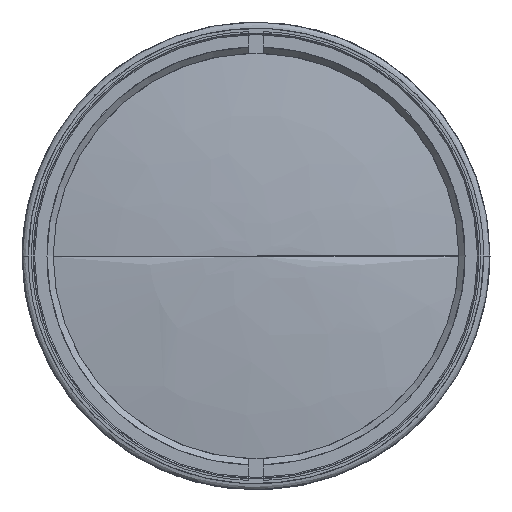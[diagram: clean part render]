
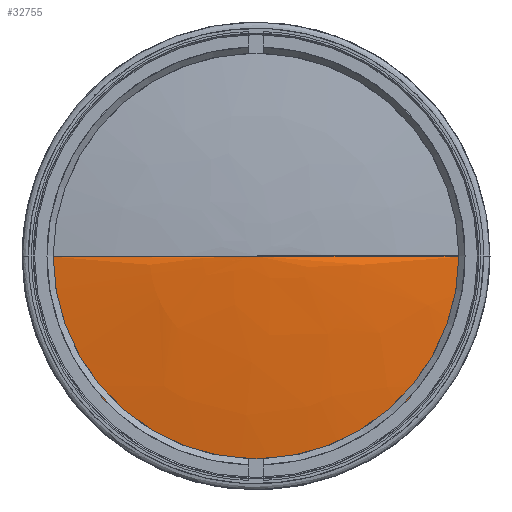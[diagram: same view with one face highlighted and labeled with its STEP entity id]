
A CAD part, left-side view. The second image highlights one B-rep face of the part: STEP entity #32755.
In plain terms, the highlighted face is a revolution surface.
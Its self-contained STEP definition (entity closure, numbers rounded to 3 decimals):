
#32755 = ADVANCED_FACE('',(#32756),#32774,.T.);
#32756 = FACE_BOUND('',#32757,.T.);
#32757 = EDGE_LOOP('',(#32758,#32788,#32807,#32826));
#32758 = ORIENTED_EDGE('',*,*,#32759,.F.);
#32759 = EDGE_CURVE('',#32760,#32762,#32764,.T.);
#32760 = VERTEX_POINT('',#32761);
#32761 = CARTESIAN_POINT('',(-141.713,0.,
    0.));
#32762 = VERTEX_POINT('',#32763);
#32763 = CARTESIAN_POINT('',(-139.409,34.,
    0.));
#32764 = SURFACE_CURVE('',#32765,(#32773),.PCURVE_S1.);
#32765 = ( BOUNDED_CURVE() B_SPLINE_CURVE(6,(#32766,#32767,#32768,#32769
    ,#32770,#32771,#32772),.UNSPECIFIED.,.F.,.F.) 
B_SPLINE_CURVE_WITH_KNOTS((7,7),(0.,1.),.PIECEWISE_BEZIER_KNOTS.) CURVE(
) GEOMETRIC_REPRESENTATION_ITEM() RATIONAL_B_SPLINE_CURVE((
    1.,1.,1.,1.,
1.,1.,1.)) REPRESENTATION_ITEM('') );
#32766 = CARTESIAN_POINT('',(-141.713,0.,
    0.));
#32767 = CARTESIAN_POINT('',(-141.713,5.685,
    0.));
#32768 = CARTESIAN_POINT('',(-141.559,11.369,
    0.));
#32769 = CARTESIAN_POINT('',(-141.251,17.047,
    0.));
#32770 = CARTESIAN_POINT('',(-140.79,22.714,
    0.));
#32771 = CARTESIAN_POINT('',(-140.176,28.367,
    0.));
#32772 = CARTESIAN_POINT('',(-139.409,34.,
    0.));
#32773 = PCURVE('',#32774,#32783);
#32774 = SURFACE_OF_REVOLUTION('',#32775,#32780);
#32775 = CIRCLE('',#32776,252.);
#32776 = AXIS2_PLACEMENT_3D('',#32777,#32778,#32779);
#32777 = CARTESIAN_POINT('',(110.287,0.,0.));
#32778 = DIRECTION('',(-0.,0.,1.));
#32779 = DIRECTION('',(1.,0.,0.));
#32780 = AXIS1_PLACEMENT('',#32781,#32782);
#32781 = CARTESIAN_POINT('',(110.287,0.,0.));
#32782 = DIRECTION('',(1.,0.,0.));
#32783 = DEFINITIONAL_REPRESENTATION('',(#32784),#32787);
#32784 = B_SPLINE_CURVE_WITH_KNOTS('',1,(#32785,#32786),.UNSPECIFIED.,
  .F.,.F.,(2,2),(0.,1.),.PIECEWISE_BEZIER_KNOTS.);
#32785 = CARTESIAN_POINT('',(6.283,3.142));
#32786 = CARTESIAN_POINT('',(6.283,3.006));
#32787 = ( GEOMETRIC_REPRESENTATION_CONTEXT(2) 
PARAMETRIC_REPRESENTATION_CONTEXT() REPRESENTATION_CONTEXT('',''
  ) );
#32788 = ORIENTED_EDGE('',*,*,#32789,.F.);
#32789 = EDGE_CURVE('',#32790,#32760,#32792,.T.);
#32790 = VERTEX_POINT('',#32791);
#32791 = CARTESIAN_POINT('',(-141.713,0.,
    0.));
#32792 = SURFACE_CURVE('',#32793,(#32801),.PCURVE_S1.);
#32793 = ( BOUNDED_CURVE() B_SPLINE_CURVE(6,(#32794,#32795,#32796,#32797
    ,#32798,#32799,#32800),.UNSPECIFIED.,.F.,.F.) 
B_SPLINE_CURVE_WITH_KNOTS((7,7),(0.,1.),.PIECEWISE_BEZIER_KNOTS.) CURVE(
) GEOMETRIC_REPRESENTATION_ITEM() RATIONAL_B_SPLINE_CURVE((
    1.133,1.036,0.992,0.976,
0.992,1.036,1.133)) REPRESENTATION_ITEM('') 
  );
#32794 = CARTESIAN_POINT('',(-141.713,0.,
    0.));
#32795 = CARTESIAN_POINT('',(-141.713,0.,
    0.));
#32796 = CARTESIAN_POINT('',(-141.713,0.,
    0.));
#32797 = CARTESIAN_POINT('',(-141.713,0.,
    0.));
#32798 = CARTESIAN_POINT('',(-141.713,0.,
    0.));
#32799 = CARTESIAN_POINT('',(-141.713,0.,
    0.));
#32800 = CARTESIAN_POINT('',(-141.713,0.,
    0.));
#32801 = PCURVE('',#32774,#32802);
#32802 = DEFINITIONAL_REPRESENTATION('',(#32803),#32806);
#32803 = B_SPLINE_CURVE_WITH_KNOTS('',1,(#32804,#32805),.UNSPECIFIED.,
  .F.,.F.,(2,2),(0.,1.),.PIECEWISE_BEZIER_KNOTS.);
#32804 = CARTESIAN_POINT('',(3.142,3.142));
#32805 = CARTESIAN_POINT('',(6.283,3.142));
#32806 = ( GEOMETRIC_REPRESENTATION_CONTEXT(2) 
PARAMETRIC_REPRESENTATION_CONTEXT() REPRESENTATION_CONTEXT('',''
  ) );
#32807 = ORIENTED_EDGE('',*,*,#32808,.F.);
#32808 = EDGE_CURVE('',#32809,#32790,#32811,.T.);
#32809 = VERTEX_POINT('',#32810);
#32810 = CARTESIAN_POINT('',(-139.409,-34.,
    0.));
#32811 = SURFACE_CURVE('',#32812,(#32820),.PCURVE_S1.);
#32812 = ( BOUNDED_CURVE() B_SPLINE_CURVE(6,(#32813,#32814,#32815,#32816
    ,#32817,#32818,#32819),.UNSPECIFIED.,.F.,.F.) 
B_SPLINE_CURVE_WITH_KNOTS((7,7),(0.,1.),.PIECEWISE_BEZIER_KNOTS.) CURVE(
) GEOMETRIC_REPRESENTATION_ITEM() RATIONAL_B_SPLINE_CURVE((
    1.,1.,1.,1.,
1.,1.,1.)) REPRESENTATION_ITEM('') );
#32813 = CARTESIAN_POINT('',(-139.409,-34.,
    0.));
#32814 = CARTESIAN_POINT('',(-140.176,-28.367,
    0.));
#32815 = CARTESIAN_POINT('',(-140.79,-22.714,
    0.));
#32816 = CARTESIAN_POINT('',(-141.251,-17.047,
    0.));
#32817 = CARTESIAN_POINT('',(-141.559,-11.369,
    0.));
#32818 = CARTESIAN_POINT('',(-141.713,-5.685,
    0.));
#32819 = CARTESIAN_POINT('',(-141.713,0.,
    0.));
#32820 = PCURVE('',#32774,#32821);
#32821 = DEFINITIONAL_REPRESENTATION('',(#32822),#32825);
#32822 = B_SPLINE_CURVE_WITH_KNOTS('',1,(#32823,#32824),.UNSPECIFIED.,
  .F.,.F.,(2,2),(0.,1.),.PIECEWISE_BEZIER_KNOTS.);
#32823 = CARTESIAN_POINT('',(3.142,3.006));
#32824 = CARTESIAN_POINT('',(3.142,3.142));
#32825 = ( GEOMETRIC_REPRESENTATION_CONTEXT(2) 
PARAMETRIC_REPRESENTATION_CONTEXT() REPRESENTATION_CONTEXT('',''
  ) );
#32826 = ORIENTED_EDGE('',*,*,#32827,.F.);
#32827 = EDGE_CURVE('',#32762,#32809,#32828,.T.);
#32828 = SURFACE_CURVE('',#32829,(#32840),.PCURVE_S1.);
#32829 = B_SPLINE_CURVE_WITH_KNOTS('',9,(#32830,#32831,#32832,#32833,
    #32834,#32835,#32836,#32837,#32838,#32839),.UNSPECIFIED.,.F.,.F.,(10
    ,10),(0.,1.),.PIECEWISE_BEZIER_KNOTS.);
#32830 = CARTESIAN_POINT('',(-139.409,34.,
    0.));
#32831 = CARTESIAN_POINT('',(-139.409,34.,
    -11.868));
#32832 = CARTESIAN_POINT('',(-139.409,29.339,
    -23.737));
#32833 = CARTESIAN_POINT('',(-139.409,20.018,
    -33.512));
#32834 = CARTESIAN_POINT('',(-139.409,7.132,
    -39.108));
#32835 = CARTESIAN_POINT('',(-139.409,-7.132,
    -39.108));
#32836 = CARTESIAN_POINT('',(-139.409,-20.018,
    -33.512));
#32837 = CARTESIAN_POINT('',(-139.409,-29.339,
    -23.737));
#32838 = CARTESIAN_POINT('',(-139.409,-34.,
    -11.868));
#32839 = CARTESIAN_POINT('',(-139.409,-34.,
    0.));
#32840 = PCURVE('',#32774,#32841);
#32841 = DEFINITIONAL_REPRESENTATION('',(#32842),#32845);
#32842 = B_SPLINE_CURVE_WITH_KNOTS('',1,(#32843,#32844),.UNSPECIFIED.,
  .F.,.F.,(2,2),(0.,1.),.PIECEWISE_BEZIER_KNOTS.);
#32843 = CARTESIAN_POINT('',(6.283,3.006));
#32844 = CARTESIAN_POINT('',(3.142,3.006));
#32845 = ( GEOMETRIC_REPRESENTATION_CONTEXT(2) 
PARAMETRIC_REPRESENTATION_CONTEXT() REPRESENTATION_CONTEXT('',''
  ) );
